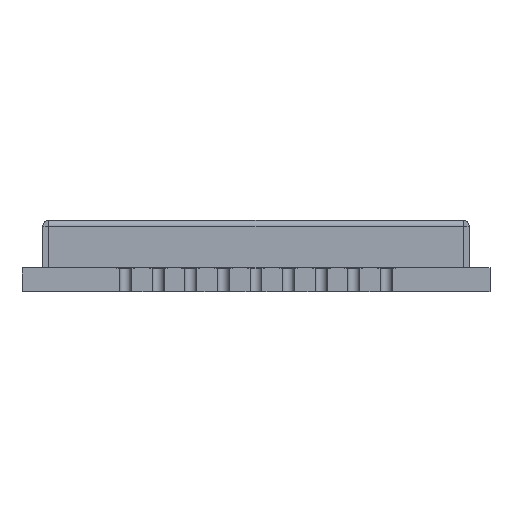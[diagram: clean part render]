
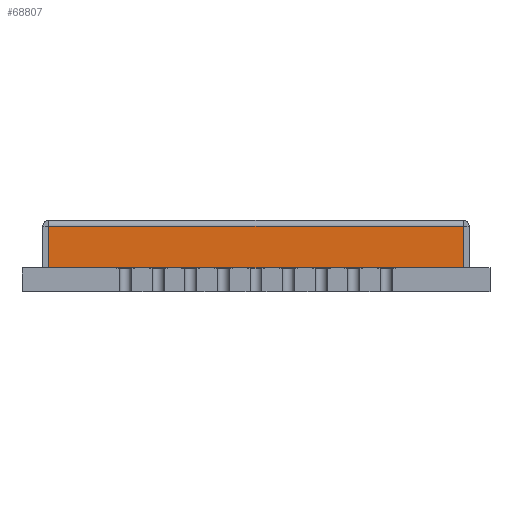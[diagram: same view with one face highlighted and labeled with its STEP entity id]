
A CAD part, front view. The second image highlights one B-rep face of the part: STEP entity #68807.
In plain terms, the highlighted planar face has unit normal (0, -1, 0).
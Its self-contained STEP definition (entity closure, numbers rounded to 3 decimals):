
#36535=DIRECTION('',(0.,0.,1.));
#36536=VECTOR('',#36535,1.4);
#36537=CARTESIAN_POINT('',(7.,-8.15,0.));
#36538=LINE('',#36537,#36536);
#36556=DIRECTION('',(0.,0.,1.));
#36557=VECTOR('',#36556,1.4);
#36558=CARTESIAN_POINT('',(-7.,-8.15,0.));
#36559=LINE('',#36558,#36557);
#36563=DIRECTION('',(1.,0.,0.));
#36564=VECTOR('',#36563,14.);
#36565=CARTESIAN_POINT('',(-7.,-8.15,0.));
#36566=LINE('',#36565,#36564);
#36620=DIRECTION('',(1.,0.,0.));
#36621=VECTOR('',#36620,14.);
#36622=CARTESIAN_POINT('',(-7.,-8.15,1.4));
#36623=LINE('',#36622,#36621);
#58630=CARTESIAN_POINT('',(-7.,-8.15,0.));
#58631=CARTESIAN_POINT('',(-7.,-8.15,1.4));
#58632=VERTEX_POINT('',#58630);
#58633=VERTEX_POINT('',#58631);
#58634=CARTESIAN_POINT('',(7.,-8.15,0.));
#58635=CARTESIAN_POINT('',(7.,-8.15,1.4));
#58636=VERTEX_POINT('',#58634);
#58637=VERTEX_POINT('',#58635);
#68793=CARTESIAN_POINT('',(-7.2,-8.15,0.));
#68794=DIRECTION('',(0.,-1.,0.));
#68795=DIRECTION('',(1.,0.,0.));
#68796=AXIS2_PLACEMENT_3D('',#68793,#68794,#68795);
#68797=PLANE('',#68796);
#68799=ORIENTED_EDGE('',*,*,#68798,.F.);
#68801=ORIENTED_EDGE('',*,*,#68800,.T.);
#68803=ORIENTED_EDGE('',*,*,#68802,.T.);
#68804=ORIENTED_EDGE('',*,*,#68783,.F.);
#68805=EDGE_LOOP('',(#68799,#68801,#68803,#68804));
#68806=FACE_OUTER_BOUND('',#68805,.F.);
#68783=EDGE_CURVE('',#58636,#58637,#36538,.T.);
#68798=EDGE_CURVE('',#58632,#58636,#36566,.T.);
#68800=EDGE_CURVE('',#58632,#58633,#36559,.T.);
#68802=EDGE_CURVE('',#58633,#58637,#36623,.T.);
#68807=ADVANCED_FACE('',(#68806),#68797,.T.);
